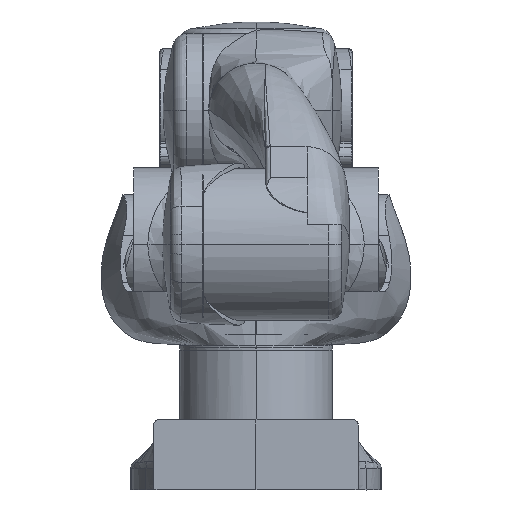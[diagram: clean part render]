
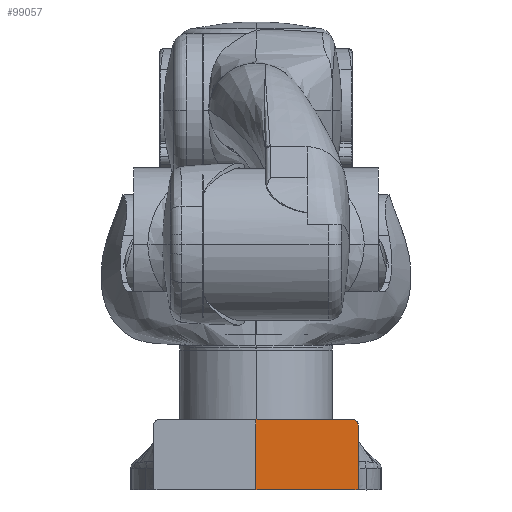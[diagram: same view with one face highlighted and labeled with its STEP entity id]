
A CAD part, left-side view. The second image highlights one B-rep face of the part: STEP entity #99057.
In plain terms, the highlighted free-form (B-spline) face has degree [1, 1] with [3, 3] control points.
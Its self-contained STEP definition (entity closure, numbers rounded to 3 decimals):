
#1470 = CARTESIAN_POINT ( 'NONE',  ( -55., 0., 28. ) ) ;
#2652 = B_SPLINE_CURVE_WITH_KNOTS ( 'NONE', 1,
 ( #133343, #98935 ),
 .UNSPECIFIED., .F., .F.,
 ( 2, 2 ),
 ( 0., 1. ),
 .UNSPECIFIED. ) ;
#3082 = ORIENTED_EDGE ( 'NONE', *, *, #102654, .T. ) ;
#5129 = CARTESIAN_POINT ( 'NONE',  ( -55., -41.551, 0. ) ) ;
#5413 = CARTESIAN_POINT ( 'NONE',  ( -55., 0., 30. ) ) ;
#5732 = B_SPLINE_CURVE_WITH_KNOTS ( 'NONE', 1,
 ( #136387, #113393, #64941 ),
 .UNSPECIFIED., .F., .F.,
 ( 2, 1, 2 ),
 ( 0., 0., 1. ),
 .UNSPECIFIED. ) ;
#6633 = EDGE_CURVE ( 'NONE', #129270, #39409, #13014, .T. ) ;
#7652 = CARTESIAN_POINT ( 'NONE',  ( -55., -40.551, 30. ) ) ;
#8866 = CARTESIAN_POINT ( 'NONE',  ( -55., -41.551, 30. ) ) ;
#13014 = B_SPLINE_CURVE_WITH_KNOTS ( 'NONE', 1,
 ( #38558, #1470 ),
 .UNSPECIFIED., .F., .F.,
 ( 2, 2 ),
 ( 0., 1. ),
 .UNSPECIFIED. ) ;
#13734 = ORIENTED_EDGE ( 'NONE', *, *, #108148, .T. ) ;
#17713 = B_SPLINE_CURVE_WITH_KNOTS ( 'NONE', 3,
 ( #78362, #55852, #44843, #104374 ),
 .UNSPECIFIED., .F., .F.,
 ( 4, 4 ),
 ( 0., 1. ),
 .UNSPECIFIED. ) ;
#17773 = EDGE_CURVE ( 'NONE', #92323, #86692, #17713, .T. ) ;
#20153 = CARTESIAN_POINT ( 'NONE',  ( -55., -43.322, 28.231 ) ) ;
#21198 = CARTESIAN_POINT ( 'NONE',  ( -55., -43.53, 27.423 ) ) ;
#22798 = VERTEX_POINT ( 'NONE', #5129 ) ;
#24121 = CARTESIAN_POINT ( 'NONE',  ( -55., 0., 30. ) ) ;
#24192 = EDGE_CURVE ( 'NONE', #39409, #62555, #5732, .T. ) ;
#30846 = CARTESIAN_POINT ( 'NONE',  ( -55., 0., 28. ) ) ;
#31163 = CARTESIAN_POINT ( 'NONE',  ( -55., -43.328, 28.218 ) ) ;
#31345 = CARTESIAN_POINT ( 'NONE',  ( -55., -43.551, 28. ) ) ;
#31674 = CARTESIAN_POINT ( 'NONE',  ( -55., -42.857, 29.006 ) ) ;
#32900 = CARTESIAN_POINT ( 'NONE',  ( -55., -41.551, 28. ) ) ;
#33348 = ORIENTED_EDGE ( 'NONE', *, *, #6633, .F. ) ;
#34788 = CARTESIAN_POINT ( 'NONE',  ( -55., -43.551, 26.888 ) ) ;
#34955 = CARTESIAN_POINT ( 'NONE',  ( -55., -40.551, 30. ) ) ;
#38558 = CARTESIAN_POINT ( 'NONE',  ( -55., 0., 0. ) ) ;
#39409 = VERTEX_POINT ( 'NONE', #151035 ) ;
#43181 = CARTESIAN_POINT ( 'NONE',  ( -55., -42.146, 29.612 ) ) ;
#44203 = CARTESIAN_POINT ( 'NONE',  ( -55., -42.608, 29.271 ) ) ;
#44381 = CARTESIAN_POINT ( 'NONE',  ( -55., -43.551, 0. ) ) ;
#44843 = CARTESIAN_POINT ( 'NONE',  ( -55., -43.551, 17.925 ) ) ;
#45236 = CARTESIAN_POINT ( 'NONE',  ( -55., -41.943, 29.719 ) ) ;
#49420 = CARTESIAN_POINT ( 'NONE',  ( -55., -41.551, 0. ) ) ;
#53461 = B_SPLINE_CURVE_WITH_KNOTS ( 'NONE', 1,
 ( #24121, #107650 ),
 .UNSPECIFIED., .F., .F.,
 ( 2, 2 ),
 ( 0., 1. ),
 .UNSPECIFIED. ) ;
#55205 = CARTESIAN_POINT ( 'NONE',  ( -55., -41.913, 29.733 ) ) ;
#55717 = CARTESIAN_POINT ( 'NONE',  ( -55., -42.405, 29.447 ) ) ;
#55852 = CARTESIAN_POINT ( 'NONE',  ( -55., -43.551, 8.963 ) ) ;
#56238 = CARTESIAN_POINT ( 'NONE',  ( -55., -43.55, 27.173 ) ) ;
#56755 = CARTESIAN_POINT ( 'NONE',  ( -55., -43.351, 28.158 ) ) ;
#57279 = CARTESIAN_POINT ( 'NONE',  ( -55., -43.124, 28.649 ) ) ;
#62555 = VERTEX_POINT ( 'NONE', #5413 ) ;
#63829 = EDGE_CURVE ( 'NONE', #62555, #83060, #53461, .T. ) ;
#64941 = CARTESIAN_POINT ( 'NONE',  ( -55., 0., 30. ) ) ;
#67222 = CARTESIAN_POINT ( 'NONE',  ( -55., -41.074, 29.977 ) ) ;
#67801 = B_SPLINE_CURVE_WITH_KNOTS ( 'NONE', 1,
 ( #49420, #97458, #147979 ),
 .UNSPECIFIED., .F., .F.,
 ( 2, 1, 2 ),
 ( 0., 0., 1. ),
 .UNSPECIFIED. ) ;
#68752 = CARTESIAN_POINT ( 'NONE',  ( -55., -41.885, 29.746 ) ) ;
#72556 = ORIENTED_EDGE ( 'NONE', *, *, #63829, .F. ) ;
#78362 = CARTESIAN_POINT ( 'NONE',  ( -55., -43.551, 0. ) ) ;
#79260 = CARTESIAN_POINT ( 'NONE',  ( -55., -40.829, 29.998 ) ) ;
#80279 = CARTESIAN_POINT ( 'NONE',  ( -55., -42.968, 28.866 ) ) ;
#80795 = CARTESIAN_POINT ( 'NONE',  ( -55., -43.437, 27.9 ) ) ;
#80934 = ORIENTED_EDGE ( 'NONE', *, *, #17773, .T. ) ;
#83060 = VERTEX_POINT ( 'NONE', #34955 ) ;
#83691 = B_SPLINE_SURFACE_WITH_KNOTS ( 'NONE', 1, 1, ( 
 ( #104434, #8866, #102884 ),
 ( #30846, #32900, #31345 ),
 ( #103924, #151346, #44381 ) ),
 .UNSPECIFIED., .F., .F., .F.,
 ( 2, 1, 2 ),
 ( 2, 1, 2 ),
 ( -0.065, 0.006, 1. ),
 ( 0., 0.994, 1.042 ),
 .UNSPECIFIED. ) ;
#84665 = EDGE_CURVE ( 'NONE', #129270, #22798, #2652, .T. ) ;
#86692 = VERTEX_POINT ( 'NONE', #34788 ) ;
#92323 = VERTEX_POINT ( 'NONE', #116237 ) ;
#95454 = ORIENTED_EDGE ( 'NONE', *, *, #84665, .T. ) ;
#97458 = CARTESIAN_POINT ( 'NONE',  ( -55., -41.551, 0. ) ) ;
#98935 = CARTESIAN_POINT ( 'NONE',  ( -55., -41.551, 0. ) ) ;
#99057 = ADVANCED_FACE ( 'NONE', ( #110535 ), #83691, .T. ) ;
#99738 = B_SPLINE_CURVE_WITH_KNOTS ( 'NONE', 3,
 ( #150659, #56238, #21198, #104768, #80795, #114668, #56755, #139705, #31163, #20153, #115695, #57279, #80279, #31674, #116201, #44203, #55717, #43181, #126678, #45236, #55205, #140224, #68752, #151672, #138679, #104247, #103209, #115177, #67222, #79260, #7652 ),
 .UNSPECIFIED., .F., .F.,
 ( 4, 2, 1, 1, 1, 2, 2, 1, 2, 2, 1, 1, 1, 1, 2, 2, 1, 2, 2, 4 ),
 ( 0., 0.125, 0.187, 0.219, 0.234, 0.242, 0.25, 0.375, 0.437, 0.5, 0.625, 0.687, 0.719, 0.734, 0.742, 0.75, 0.812, 0.844, 0.875, 1. ),
 .UNSPECIFIED. ) ;
#102654 = EDGE_CURVE ( 'NONE', #86692, #83060, #99738, .T. ) ;
#102884 = CARTESIAN_POINT ( 'NONE',  ( -55., -43.551, 30. ) ) ;
#103209 = CARTESIAN_POINT ( 'NONE',  ( -55., -41.388, 29.915 ) ) ;
#103663 = EDGE_LOOP ( 'NONE', ( #72556, #104572, #33348, #95454, #13734, #80934, #3082 ) ) ;
#103924 = CARTESIAN_POINT ( 'NONE',  ( -55., 0., 0. ) ) ;
#104247 = CARTESIAN_POINT ( 'NONE',  ( -55., -41.489, 29.889 ) ) ;
#104374 = CARTESIAN_POINT ( 'NONE',  ( -55., -43.551, 26.888 ) ) ;
#104434 = CARTESIAN_POINT ( 'NONE',  ( -55., 0., 30. ) ) ;
#104572 = ORIENTED_EDGE ( 'NONE', *, *, #24192, .F. ) ;
#104768 = CARTESIAN_POINT ( 'NONE',  ( -55., -43.473, 27.744 ) ) ;
#107650 = CARTESIAN_POINT ( 'NONE',  ( -55., -40.551, 30. ) ) ;
#108148 = EDGE_CURVE ( 'NONE', #22798, #92323, #67801, .T. ) ;
#110535 = FACE_OUTER_BOUND ( 'NONE', #103663, .T. ) ;
#113393 = CARTESIAN_POINT ( 'NONE',  ( -55., 0., 28.001 ) ) ;
#114668 = CARTESIAN_POINT ( 'NONE',  ( -55., -43.382, 28.073 ) ) ;
#115177 = CARTESIAN_POINT ( 'NONE',  ( -55., -41.339, 29.926 ) ) ;
#115695 = CARTESIAN_POINT ( 'NONE',  ( -55., -43.249, 28.41 ) ) ;
#116201 = CARTESIAN_POINT ( 'NONE',  ( -55., -42.799, 29.072 ) ) ;
#116237 = CARTESIAN_POINT ( 'NONE',  ( -55., -43.551, 0. ) ) ;
#126389 = CARTESIAN_POINT ( 'NONE',  ( -55., 0., 0. ) ) ;
#126678 = CARTESIAN_POINT ( 'NONE',  ( -55., -42.012, 29.685 ) ) ;
#129270 = VERTEX_POINT ( 'NONE', #126389 ) ;
#133343 = CARTESIAN_POINT ( 'NONE',  ( -55., 0., 0. ) ) ;
#136387 = CARTESIAN_POINT ( 'NONE',  ( -55., 0., 28. ) ) ;
#138679 = CARTESIAN_POINT ( 'NONE',  ( -55., -41.638, 29.847 ) ) ;
#139705 = CARTESIAN_POINT ( 'NONE',  ( -55., -43.337, 28.194 ) ) ;
#140224 = CARTESIAN_POINT ( 'NONE',  ( -55., -41.893, 29.742 ) ) ;
#147979 = CARTESIAN_POINT ( 'NONE',  ( -55., -43.551, 0. ) ) ;
#150659 = CARTESIAN_POINT ( 'NONE',  ( -55., -43.551, 26.888 ) ) ;
#151035 = CARTESIAN_POINT ( 'NONE',  ( -55., 0., 28. ) ) ;
#151346 = CARTESIAN_POINT ( 'NONE',  ( -55., -41.551, 0. ) ) ;
#151672 = CARTESIAN_POINT ( 'NONE',  ( -55., -41.781, 29.793 ) ) ;
